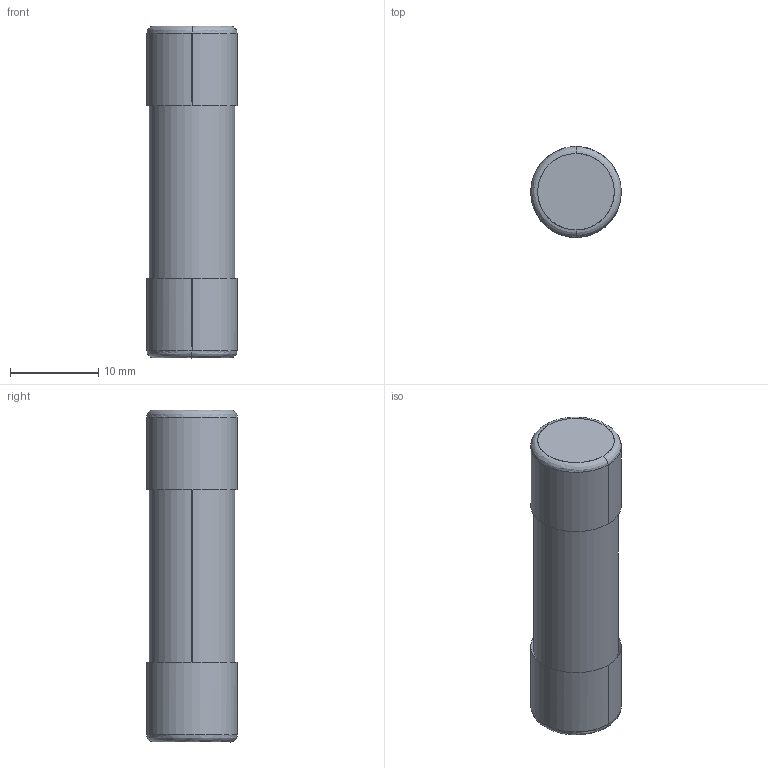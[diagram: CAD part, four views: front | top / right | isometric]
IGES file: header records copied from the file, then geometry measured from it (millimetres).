
Start section: SolidWorks IGES file using analytic representation for surfaces
Global section: file name: U:\14_RD\05_Technical_office\04_Office\Hrdinova\3D modely - IGES\Varius - Ostatní\PV10.IGS; native system: SolidWorks 2011; preprocessor: SolidWorks 2011; author: adhrja3; date: 170620.141210; units: millimetre
Bounding box: 10.25 x 10.25 x 37.56 mm (x, y, z)
Surface area: 3184.8 mm2 (no closed solid volume)
Topology: 0 solids, 0 shells, 34 faces, 352 edges, 352 vertices
Faces by surface type: revolution 20, bspline 14
